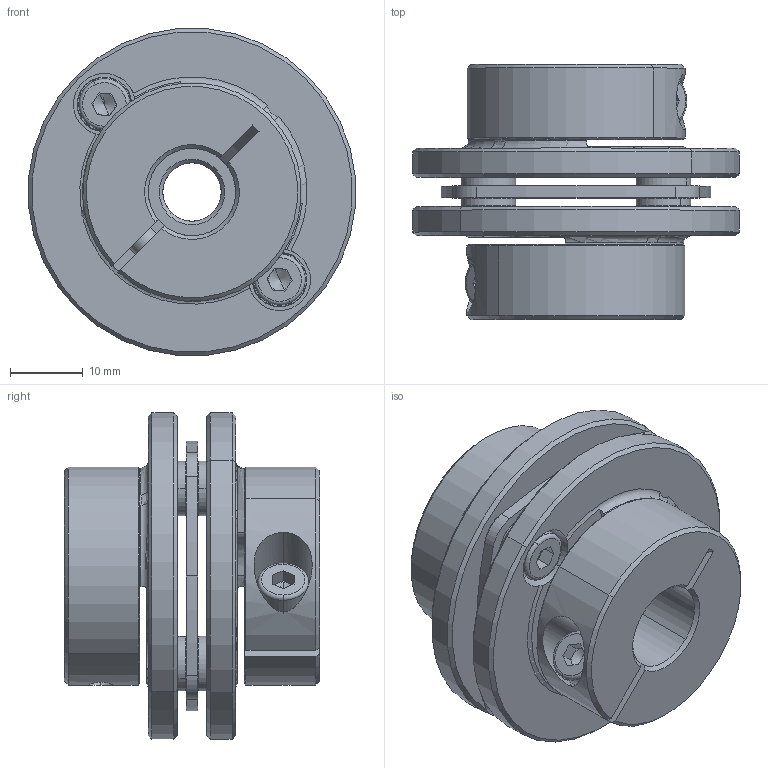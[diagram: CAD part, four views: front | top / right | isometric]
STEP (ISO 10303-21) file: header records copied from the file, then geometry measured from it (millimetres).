
FILE_DESCRIPTION (( 'STEP AP203' ), '1' );
FILE_NAME ('LE1-B-D45L35-8-12.STEP', '2021-11-01T03:05:36', ( '' ), ( '' ), 'SwSTEP 2.0', 'SolidWorks 2018', '' );
FILE_SCHEMA (( 'CONFIG_CONTROL_DESIGN' ));
Length unit declared in the file: millimetre
Products named in the file (1): LE1-B-D45L35-8-12
Bounding box: 44.83 x 35 x 44.83 mm (x, y, z)
Volume: 25976.2 mm3; surface area: 15867.8 mm2
Topology: 1 solids, 13 shells, 405 faces, 991 edges, 614 vertices
Faces by surface type: plane 136, cylinder 135, cone 114, torus 18, bspline 2
Entity records: 12432 total; most frequent: CARTESIAN_POINT 2479, DIRECTION 2247, ORIENTED_EDGE 1958, EDGE_CURVE 979, AXIS2_PLACEMENT_3D 914, VERTEX_POINT 614, CIRCLE 510, EDGE_LOOP 469
